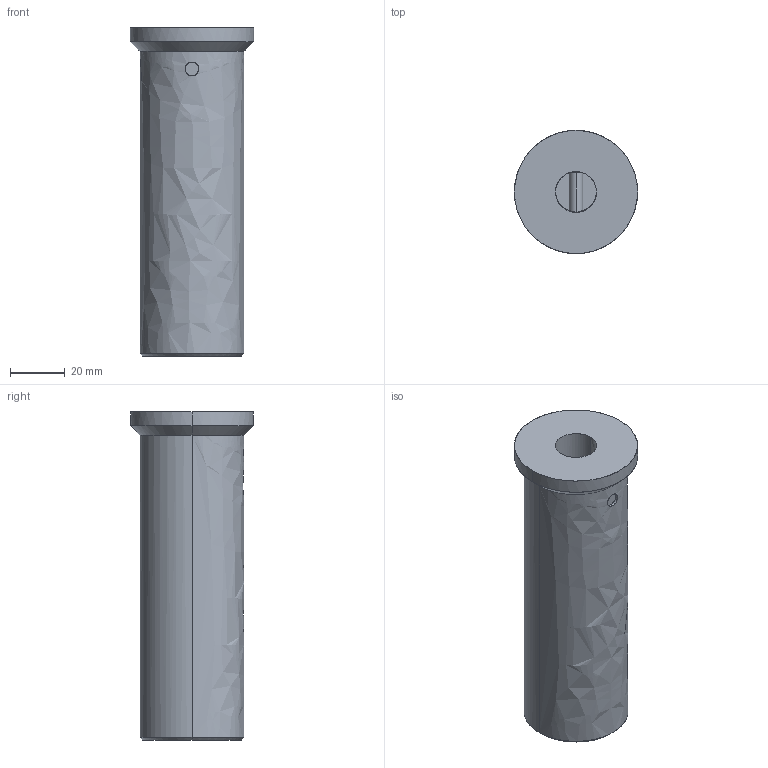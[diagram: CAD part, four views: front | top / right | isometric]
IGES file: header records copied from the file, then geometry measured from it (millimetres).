
Global section: file name: E:\UnigraphicsGraphicData\MISUMI_PRESS-PARTS\IGES\3d_lcup38-120_01349_r00.igs; native system: NX V5.0; preprocessor: UGS NX IGES V5.0; author: MISUMI; date: 20110105.161156; units: millimetre
Bounding box: 45 x 45 x 120 mm (x, y, z)
Surface area: 19305.8 mm2 (no closed solid volume)
Topology: 0 solids, 0 shells, 19 faces, 146 edges, 146 vertices
Faces by surface type: bspline 19
